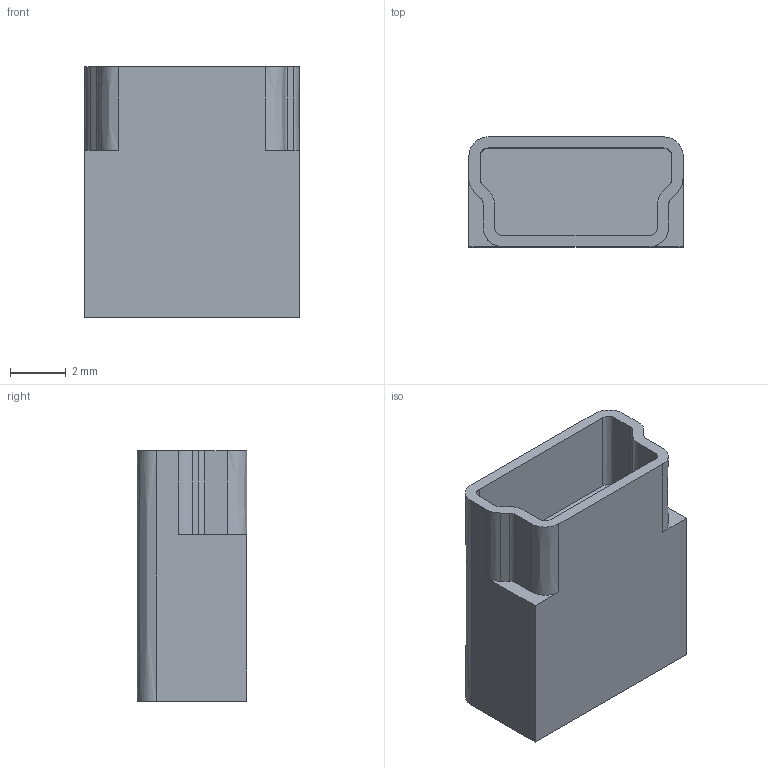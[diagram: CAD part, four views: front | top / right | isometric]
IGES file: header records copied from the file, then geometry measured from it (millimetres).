
Start section:  PTC IGES file: j4a-cn5.igs
Global section: file name: j4a-cn5.igs; native system: Pro/ENGINEER by Parametric Technology Corporation; preprocessor: 2010160; author: CV86875; organization: Unknown; date: 20121031.194045; units: millimetre
Bounding box: 7.7 x 3.95 x 9 mm (x, y, z)
Volume: 205.4 mm3; surface area: 317.5 mm2
Topology: 1 solids, 1 shells, 37 faces, 102 edges, 68 vertices
Faces by surface type: bspline 37
